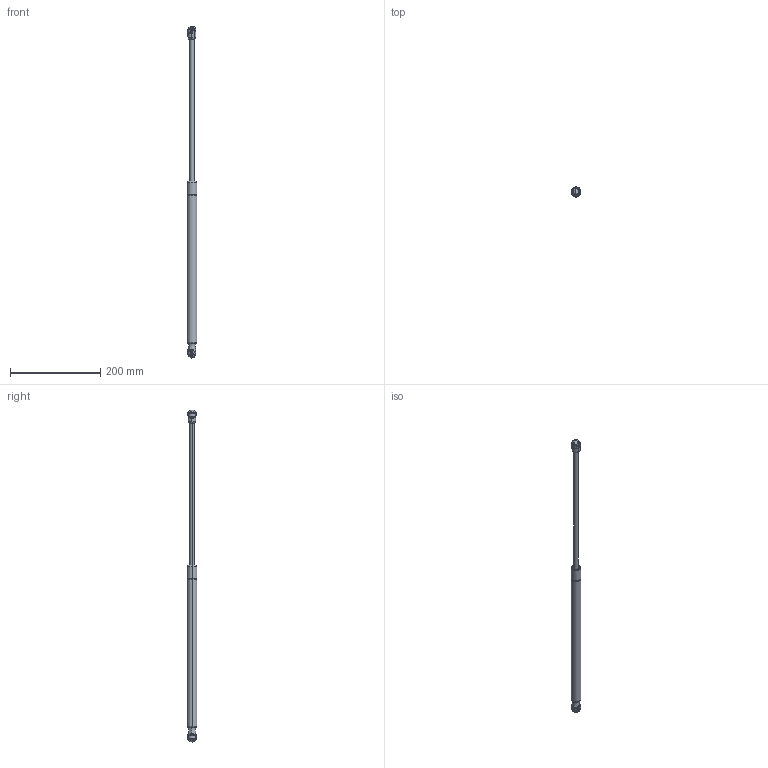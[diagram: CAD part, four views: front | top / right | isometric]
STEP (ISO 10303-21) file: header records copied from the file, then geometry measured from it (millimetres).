
FILE_DESCRIPTION (( 'STEP AP214' ), '1' );
FILE_NAME ('GS10-1200PE10.STEP', '2011-03-30T20:48:58', ( 'user' ), ( '' ), 'SwSTEP 2.0', 'SolidWorks 2011', '' );
FILE_SCHEMA (( 'AUTOMOTIVE_DESIGN' ));
Length unit declared in the file: millimetre
Products named in the file (10): 7175NH_B-SOCKET_FLARED1; 7175NH_B-SOCKET_FLARED2-2; 7175NH_B-SOCKET_FLARED1-2; GS10-1200PE10-NC; GS10-1200PE10-SHAFT; GS10-1200PE10-TUBE; 4098DY_B-SOCKETa; 4098DY_B-SOCKET2-4; 4098DY_B-SOCKET1-4; GS10-1200PE10
Assembly tree (9 placements, depth 3):
  GS10-1200PE10
    7175NH_B-SOCKET_FLARED1
      7175NH_B-SOCKET_FLARED1-2
      7175NH_B-SOCKET_FLARED2-2
    GS10-1200PE10-NC
      GS10-1200PE10-TUBE
      GS10-1200PE10-SHAFT
    4098DY_B-SOCKETa
      4098DY_B-SOCKET1-4
      4098DY_B-SOCKET2-4
Bounding box: 22 x 22 x 734 mm (x, y, z)
Volume: 145562.6 mm3; surface area: 52448.4 mm2
Topology: 6 solids, 6 shells, 403 faces, 1085 edges, 683 vertices
Faces by surface type: bspline 140, plane 119, cylinder 118, cone 18, torus 8
Entity records: 18249 total; most frequent: CARTESIAN_POINT 7604, ORIENTED_EDGE 2152, DIRECTION 1574, EDGE_CURVE 1076, VERTEX_POINT 682, AXIS2_PLACEMENT_3D 596, EDGE_LOOP 408, ADVANCED_FACE 403
